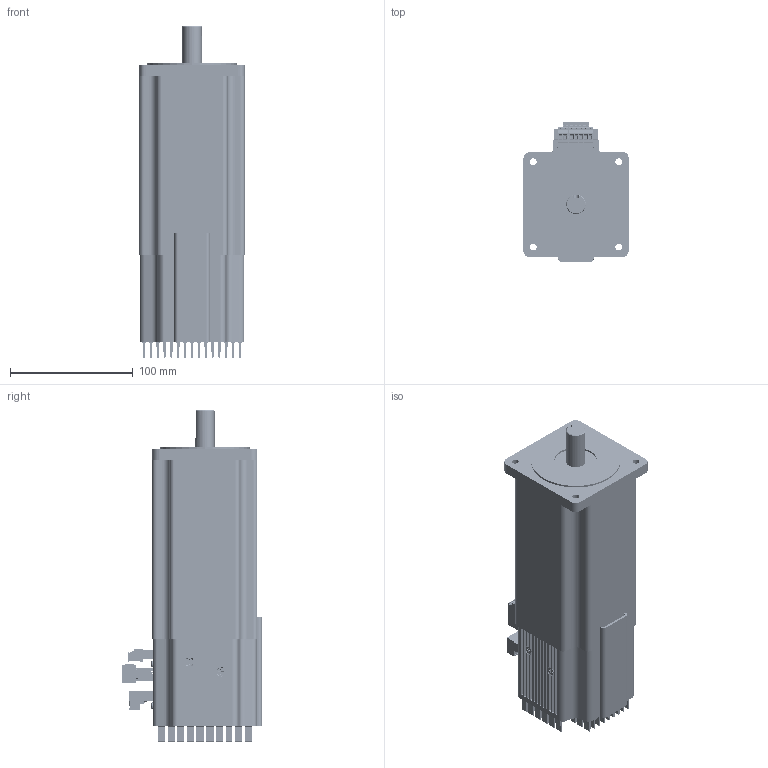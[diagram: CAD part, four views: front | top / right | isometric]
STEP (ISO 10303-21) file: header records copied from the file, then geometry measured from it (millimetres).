
FILE_DESCRIPTION(('HOOPS Exchange Step'),'2;1');
FILE_NAME('C:\Users\d_lab\AppData\Local\Temp\Alibre Design\export-19992D5C-8BEA-4761-9056-7820B0FBA108.stp','2021-09-23T10:52:02-07:00',('d_lab'),('Alibre'),'HOOPS Exchange 2021.0','Alibre','Unknown authorisation');
FILE_SCHEMA( ('AP242_MANAGED_MODEL_BASED_3D_ENGINEERING_MIM_LF {1 0 10303 442 1 1 4 }') );
Length unit declared in the file: centimetre
Products named in the file (45): Front Mount; Laminate; BackHousing; HC-1_Shaft; 34HC-3; QDR-36-xxxx-00 34 XT Housing Extrusion; QDR-36-2242-02 34 HC Power Heatsink; mcv_1.5-2-g-3.81_2; 2pin_mcv_1.5-2-g-3.81; mcvr_1.5-2-st-3.81_2; mcvr_1.5-2-st-3.81; 2-pin_removealbe_header_and_socket_-_Assembly; P3; mcv_1.5-5-g-3.81_2; mcv_1.5-5-g-3.81; mcvr_1.5-5-st-3.81_2; mcvr_1.5-5-st-3.81; 5-pin_removealbe_header_and_socket_-_Assembly; P4; 12-pin_pluggable_socket_OSTVW1210X0; 12-pin_pluggable_header_F83A-BT-; 12-pin_pluggable_header_and_socket_-_Assemmbly; P2; PRTOQ38124P_AF0; OQ-5002A1_; OQ-5002A1__AF0; 1_AF0; ASMOQ381024P_AF0_ASM; PRTOQ38124P_AF1; OQ-5002A1__AF1; 1_AF1; ASMOQ381024P_AF1_ASM; OSTOQ053250_RGB65280; OSTOQ023250_RGB65280; Free-Models; 4-40x0.250_screw__91772A106; Comm IO connector; LMC-020-CTP_red; LMC-020-CTP_green; 7-pin-socket-no-flange_TBP01P1-508-07BE_pwr2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
Assembly tree (58 placements, depth 6):
  QCI-XT34HC-3 (simple model)
    34HC-3
      Front Mount
      Laminate
      BackHousing
      HC-1_Shaft
    QDR-36-xxxx-00 34 XT Housing Extrusion
    QDR-36-2242-02 34 HC Power Heatsink
    Comm IO connector
      P3
        2-pin_removealbe_header_and_socket_-_Assembly
          2pin_mcv_1.5-2-g-3.81
            mcv_1.5-2-g-3.81_2
          mcvr_1.5-2-st-3.81
            mcvr_1.5-2-st-3.81_2
      P4
        5-pin_removealbe_header_and_socket_-_Assembly
          mcv_1.5-5-g-3.81
            mcv_1.5-5-g-3.81_2
          mcvr_1.5-5-st-3.81
            mcvr_1.5-5-st-3.81_2
      P2
        12-pin_pluggable_header_and_socket_-_Assemmbly
          12-pin_pluggable_socket_OSTVW1210X0
          12-pin_pluggable_header_F83A-BT-
      Free-Models
        OSTOQ053250_RGB65280
          ASMOQ381024P_AF0_ASM
            PRTOQ38124P_AF0
            OQ-5002A1_  x2
            OQ-5002A1__AF0
            1_AF0
          ASMOQ381024P_AF1_ASM
            PRTOQ38124P_AF1
            OQ-5002A1__AF1
            OQ-5002A1_  x2
            1_AF1
        OSTOQ023250_RGB65280
      4-40x0.250_screw__91772A106  x2
    LMC-020-CTP_red
    LMC-020-CTP_green  x2
    Power input connector
      7-pin-socket-no-flange_TBP01P1-508-07BE_pwr2
      4-40x0.250_screw__91772A106  x2
      P1_pwr
        7-pin-header-no-flange_TBP01R2-508-07BE_pwr1
    4-40 PHILIPS  x8
Bounding box: 85.85 x 114.1 x 270.52 mm (x, y, z)
Volume: 1146724.3 mm3; surface area: 207688.8 mm2
Topology: 40 solids, 48 shells, 8477 faces, 23252 edges, 15123 vertices
Faces by surface type: plane 6124, cylinder 2013, cone 159, bspline 84, sphere 53, torus 44
Full cylindrical faces by diameter (mm): 0.483 x3, 2.156 x5, 2.54 x3, 2.616 x8, 2.718 x3, 3.175 x15, 3.962 x3, 4.089 x8, 5.537 x4, 9.525 x1, 15.875 x1, 34.798 x1, 73.025 x1
Entity records: 259878 total; most frequent: CARTESIAN_POINT 56329, ORIENTED_EDGE 42968, DIRECTION 40957, EDGE_CURVE 21484, VECTOR 16743, LINE 16743, VERTEX_POINT 13997, AXIS2_PLACEMENT_3D 12107
